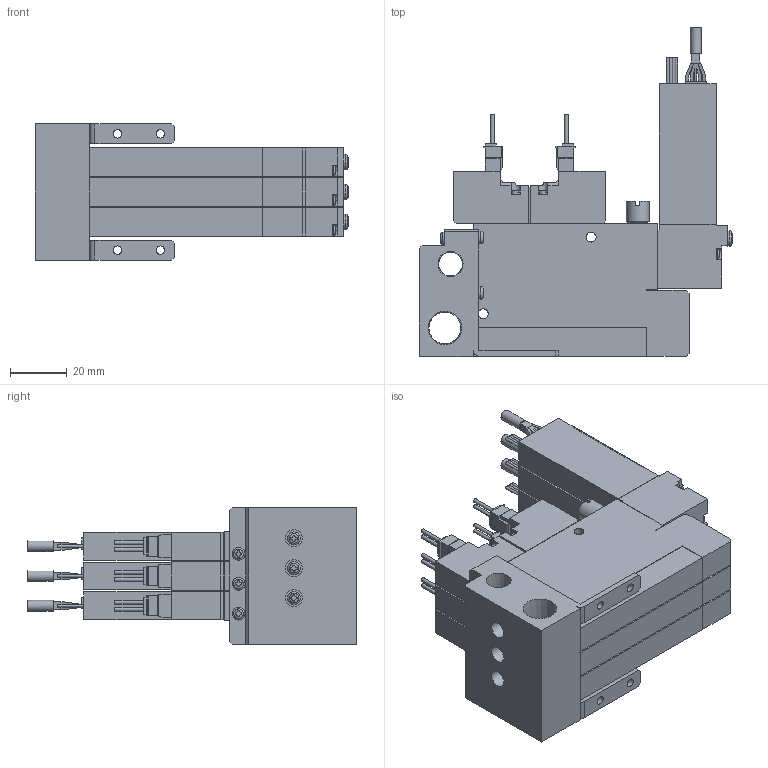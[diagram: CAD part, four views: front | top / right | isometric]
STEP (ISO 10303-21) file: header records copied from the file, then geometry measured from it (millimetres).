
FILE_DESCRIPTION(('STEP AP203'),'1');
FILE_NAME('10C5SC303_3D.stp','2024-09-04T09:44:00',(' '),(' '),'Spatial InterOp 3D',' ',' ');
FILE_SCHEMA(('CONFIG_CONTROL_DESIGN'));
Length unit declared in the file: millimetre
Products named in the file (5): BSC1M※※10C5SC303; Solenoid valve S; Pressure Sensor 10; Unit-C; BaseMC30R
Assembly tree (10 placements, depth 2):
  BSC1M※※10C5SC303
    Solenoid valve S  x3
    Pressure Sensor 10  x3
    Unit-C  x3
    BaseMC30R
Bounding box: 110.35 x 115.8 x 48 mm (x, y, z)
Volume: 203586.8 mm3; surface area: 71253.9 mm2
Topology: 10 solids, 10 shells, 1362 faces, 3663 edges, 2418 vertices
Faces by surface type: plane 1037, cylinder 262, cone 25, sphere 19, torus 19
Full cylindrical faces by diameter (mm): 0.9 x12, 1.4 x12, 2.5 x6, 3 x16, 3.5 x24, 3.8 x3, 4 x3, 4.134 x6, 4.5 x10, 5.5 x6, 6 x3, 7 x6, 8 x3, 8.422 x1, 11.233 x1
Entity records: 18380 total; most frequent: CARTESIAN_POINT 3942, DIRECTION 2879, ORIENTED_EDGE 2824, EDGE_CURVE 1412, LINE 1013, VECTOR 1013, VERTEX_POINT 985, AXIS2_PLACEMENT_3D 933
